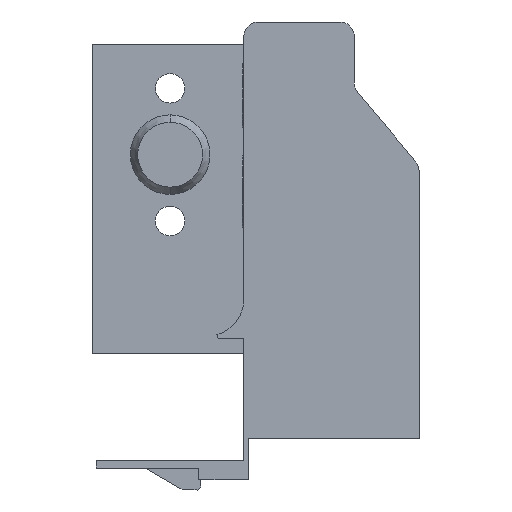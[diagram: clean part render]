
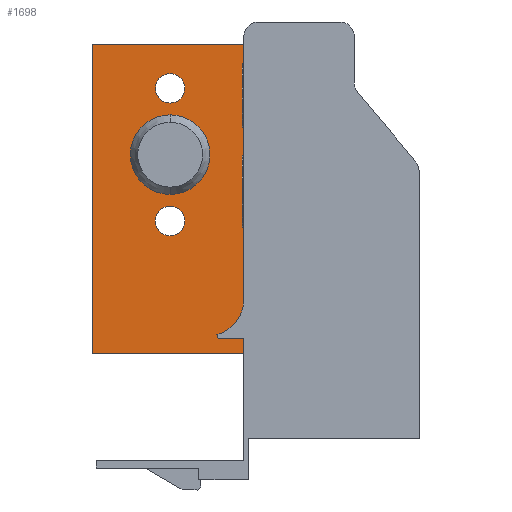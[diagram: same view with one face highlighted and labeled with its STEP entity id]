
A CAD part, front view. The second image highlights one B-rep face of the part: STEP entity #1698.
In plain terms, the highlighted planar face has unit normal (0, -1, 0).
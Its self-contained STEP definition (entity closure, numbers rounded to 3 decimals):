
#1 = VERTEX_POINT ( 'NONE', #6 ) ;
#4 = VERTEX_POINT ( 'NONE', #127 ) ;
#6 = CARTESIAN_POINT ( 'NONE',  ( -29.5, 347.2, 34. ) ) ;
#20 = VERTEX_POINT ( 'NONE', #137 ) ;
#32 = VERTEX_POINT ( 'NONE', #149 ) ;
#46 = VERTEX_POINT ( 'NONE', #163 ) ;
#48 = VERTEX_POINT ( 'NONE', #165 ) ;
#112 = VERTEX_POINT ( 'NONE', #229 ) ;
#113 = VERTEX_POINT ( 'NONE', #230 ) ;
#114 = VERTEX_POINT ( 'NONE', #231 ) ;
#115 = VERTEX_POINT ( 'NONE', #232 ) ;
#116 = VERTEX_POINT ( 'NONE', #233 ) ;
#117 = VERTEX_POINT ( 'NONE', #234 ) ;
#127 = CARTESIAN_POINT ( 'NONE',  ( -29.5, 347.2, 16. ) ) ;
#137 = CARTESIAN_POINT ( 'NONE',  ( -31.5, 347.2, 30.4 ) ) ;
#149 = CARTESIAN_POINT ( 'NONE',  ( -33.5, 347.2, 34. ) ) ;
#163 = CARTESIAN_POINT ( 'NONE',  ( -31.5, 347.2, 19.6 ) ) ;
#165 = CARTESIAN_POINT ( 'NONE',  ( -33.5, 347.2, 16. ) ) ;
#229 = CARTESIAN_POINT ( 'NONE',  ( -21.1, 347.2, 40. ) ) ;
#230 = CARTESIAN_POINT ( 'NONE',  ( -21.1, 347.2, -0.405 ) ) ;
#231 = CARTESIAN_POINT ( 'NONE',  ( -21.5, 347.2, -0.405 ) ) ;
#232 = CARTESIAN_POINT ( 'NONE',  ( -42., 347.2, 40. ) ) ;
#233 = CARTESIAN_POINT ( 'NONE',  ( -42., 347.2, -2. ) ) ;
#234 = CARTESIAN_POINT ( 'NONE',  ( -21.5, 347.2, -2. ) ) ;
#244 = CARTESIAN_POINT ( 'NONE',  ( -21.5, 347.2, -2. ) ) ;
#246 = DIRECTION ( 'NONE',  ( 1., 0., 0. ) ) ;
#379 = CARTESIAN_POINT ( 'NONE',  ( -31.5, 347.2, 34. ) ) ;
#385 = DIRECTION ( 'NONE',  ( 0., 1., 0. ) ) ;
#386 = DIRECTION ( 'NONE',  ( 1., 0., 0. ) ) ;
#409 = CARTESIAN_POINT ( 'NONE',  ( -31.5, 347.2, 34. ) ) ;
#412 = DIRECTION ( 'NONE',  ( 0., 1., 0. ) ) ;
#413 = DIRECTION ( 'NONE',  ( 1., 0., 0. ) ) ;
#453 = CARTESIAN_POINT ( 'NONE',  ( -21.5, 347.2, -64.538 ) ) ;
#462 = DIRECTION ( 'NONE',  ( 0., 0., 1. ) ) ;
#496 = CARTESIAN_POINT ( 'NONE',  ( -31.5, 347.2, 16. ) ) ;
#507 = CARTESIAN_POINT ( 'NONE',  ( -21.1, 347.2, 40. ) ) ;
#508 = DIRECTION ( 'NONE',  ( 1., 0., 0. ) ) ;
#517 = DIRECTION ( 'NONE',  ( 0., 1., 0. ) ) ;
#518 = DIRECTION ( 'NONE',  ( 1., 0., 0. ) ) ;
#541 = CARTESIAN_POINT ( 'NONE',  ( -21.1, 347.2, -0.405 ) ) ;
#554 = DIRECTION ( 'NONE',  ( -1., 0., 0. ) ) ;
#560 = CARTESIAN_POINT ( 'NONE',  ( -21.1, 347.2, 20. ) ) ;
#561 = DIRECTION ( 'NONE',  ( 0., 0., 1. ) ) ;
#573 = CARTESIAN_POINT ( 'NONE',  ( -31.5, 347.2, 25. ) ) ;
#585 = DIRECTION ( 'NONE',  ( 0., -1., 0. ) ) ;
#586 = DIRECTION ( 'NONE',  ( 1., 0., 0. ) ) ;
#593 = CARTESIAN_POINT ( 'NONE',  ( -42., 347.2, 20. ) ) ;
#606 = DIRECTION ( 'NONE',  ( 0., 0., 1. ) ) ;
#635 = CARTESIAN_POINT ( 'NONE',  ( -31.5, 347.2, 25. ) ) ;
#651 = CARTESIAN_POINT ( 'NONE',  ( -31.5, 347.2, 16. ) ) ;
#652 = DIRECTION ( 'NONE',  ( 0., -1., 0. ) ) ;
#653 = DIRECTION ( 'NONE',  ( 1., 0., 0. ) ) ;
#666 = DIRECTION ( 'NONE',  ( 0., 1., 0. ) ) ;
#667 = DIRECTION ( 'NONE',  ( 1., 0., 0. ) ) ;
#799 = PLANE ( 'NONE',  #1780 ) ;
#802 = CARTESIAN_POINT ( 'NONE',  ( -21.1, 347.2, 20. ) ) ;
#807 = DIRECTION ( 'NONE',  ( 0., -1., 0. ) ) ;
#808 = DIRECTION ( 'NONE',  ( 1., 0., 0. ) ) ;
#1021 = ORIENTED_EDGE ( 'NONE', *, *, #1504, .T. ) ;
#1044 = ORIENTED_EDGE ( 'NONE', *, *, #1521, .T. ) ;
#1058 = ORIENTED_EDGE ( 'NONE', *, *, #1429, .T. ) ;
#1064 = ORIENTED_EDGE ( 'NONE', *, *, #1655, .T. ) ;
#1080 = ORIENTED_EDGE ( 'NONE', *, *, #1574, .T. ) ;
#1082 = EDGE_LOOP ( 'NONE', ( #1230, #1296 ) ) ;
#1161 = ORIENTED_EDGE ( 'NONE', *, *, #1623, .F. ) ;
#1168 = EDGE_LOOP ( 'NONE', ( #1210, #1223, #1257, #1161, #1058, #1229 ) ) ;
#1210 = ORIENTED_EDGE ( 'NONE', *, *, #1595, .F. ) ;
#1223 = ORIENTED_EDGE ( 'NONE', *, *, #1598, .T. ) ;
#1229 = ORIENTED_EDGE ( 'NONE', *, *, #1546, .T. ) ;
#1230 = ORIENTED_EDGE ( 'NONE', *, *, #1649, .F. ) ;
#1257 = ORIENTED_EDGE ( 'NONE', *, *, #1570, .F. ) ;
#1269 = EDGE_LOOP ( 'NONE', ( #1064, #1080 ) ) ;
#1296 = ORIENTED_EDGE ( 'NONE', *, *, #1614, .F. ) ;
#1387 = LINE ( 'NONE', #244, #1396 ) ;
#1395 = EDGE_LOOP ( 'NONE', ( #1021, #1044 ) ) ;
#1396 = VECTOR ( 'NONE', #246, 1000. ) ;
#1429 = EDGE_CURVE ( 'NONE', #116, #117, #1387, .T. ) ;
#1439 = AXIS2_PLACEMENT_3D ( 'NONE', #409, #412, #413 ) ;
#1485 = AXIS2_PLACEMENT_3D ( 'NONE', #496, #517, #518 ) ;
#1504 = EDGE_CURVE ( 'NONE', #32, #1, #1844, .T. ) ;
#1521 = EDGE_CURVE ( 'NONE', #1, #32, #2084, .T. ) ;
#1546 = EDGE_CURVE ( 'NONE', #117, #114, #2169, .T. ) ;
#1570 = EDGE_CURVE ( 'NONE', #115, #112, #2128, .T. ) ;
#1574 = EDGE_CURVE ( 'NONE', #4, #48, #2123, .T. ) ;
#1587 = AXIS2_PLACEMENT_3D ( 'NONE', #379, #385, #386 ) ;
#1595 = EDGE_CURVE ( 'NONE', #113, #114, #2055, .T. ) ;
#1598 = EDGE_CURVE ( 'NONE', #113, #112, #2043, .T. ) ;
#1609 = AXIS2_PLACEMENT_3D ( 'NONE', #573, #585, #586 ) ;
#1614 = EDGE_CURVE ( 'NONE', #46, #20, #1894, .T. ) ;
#1623 = EDGE_CURVE ( 'NONE', #116, #115, #1982, .T. ) ;
#1649 = EDGE_CURVE ( 'NONE', #20, #46, #2157, .T. ) ;
#1655 = EDGE_CURVE ( 'NONE', #48, #4, #2166, .T. ) ;
#1698 = ADVANCED_FACE ( 'NONE', ( #2014, #2037, #2030, #2036 ), #799, .T. ) ;
#1754 = AXIS2_PLACEMENT_3D ( 'NONE', #635, #652, #653 ) ;
#1759 = AXIS2_PLACEMENT_3D ( 'NONE', #651, #666, #667 ) ;
#1780 = AXIS2_PLACEMENT_3D ( 'NONE', #802, #807, #808 ) ;
#1844 = CIRCLE ( 'NONE', #1587, 2. ) ;
#1894 = CIRCLE ( 'NONE', #1609, 5.4 ) ;
#1922 = VECTOR ( 'NONE', #606, 1000. ) ;
#1982 = LINE ( 'NONE', #593, #1922 ) ;
#2014 = FACE_OUTER_BOUND ( 'NONE', #1168, .T. ) ;
#2030 = FACE_BOUND ( 'NONE', #1269, .T. ) ;
#2036 = FACE_BOUND ( 'NONE', #1395, .T. ) ;
#2037 = FACE_BOUND ( 'NONE', #1082, .T. ) ;
#2043 = LINE ( 'NONE', #560, #2071 ) ;
#2055 = LINE ( 'NONE', #541, #2058 ) ;
#2058 = VECTOR ( 'NONE', #554, 1000. ) ;
#2071 = VECTOR ( 'NONE', #561, 1000. ) ;
#2084 = CIRCLE ( 'NONE', #1439, 2. ) ;
#2112 = VECTOR ( 'NONE', #462, 1000. ) ;
#2123 = CIRCLE ( 'NONE', #1485, 2. ) ;
#2128 = LINE ( 'NONE', #507, #2180 ) ;
#2157 = CIRCLE ( 'NONE', #1754, 5.4 ) ;
#2166 = CIRCLE ( 'NONE', #1759, 2. ) ;
#2169 = LINE ( 'NONE', #453, #2112 ) ;
#2180 = VECTOR ( 'NONE', #508, 1000. ) ;
